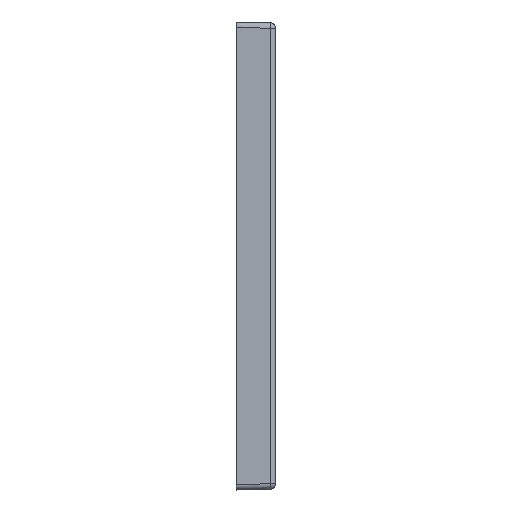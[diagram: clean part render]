
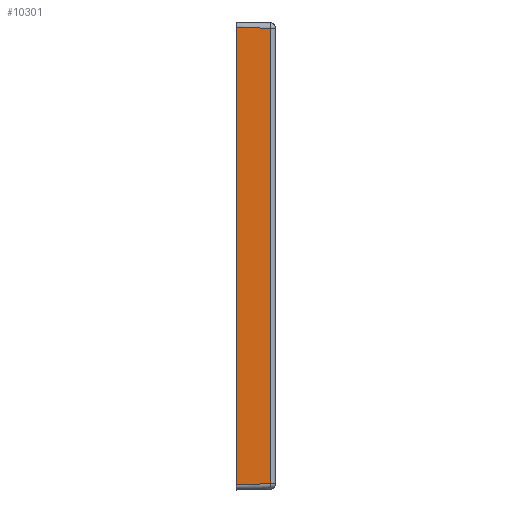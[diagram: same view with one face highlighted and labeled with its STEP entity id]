
A CAD part, left-side view. The second image highlights one B-rep face of the part: STEP entity #10301.
In plain terms, the highlighted planar face has unit normal (-1, -0.026, 0).
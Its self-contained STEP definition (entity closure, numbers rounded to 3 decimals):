
#921 = AXIS2_PLACEMENT_3D ( 'NONE', #10626, #6039, #13582 ) ;
#1565 = LINE ( 'NONE', #15618, #14623 ) ;
#1820 = CARTESIAN_POINT ( 'NONE',  ( -111., 1., 39. ) ) ;
#3073 = ORIENTED_EDGE ( 'NONE', *, *, #11453, .T. ) ;
#3544 = DIRECTION ( 'NONE',  ( 0., 0., 1. ) ) ;
#4084 = EDGE_CURVE ( 'NONE', #5202, #9749, #1565, .T. ) ;
#4616 = ORIENTED_EDGE ( 'NONE', *, *, #4084, .T. ) ;
#5202 = VERTEX_POINT ( 'NONE', #17148 ) ;
#6039 = DIRECTION ( 'NONE',  ( -1., -0.026, 0. ) ) ;
#6502 = VECTOR ( 'NONE', #11967, 1000. ) ;
#6608 = LINE ( 'NONE', #6911, #9987 ) ;
#6911 = CARTESIAN_POINT ( 'NONE',  ( -110.834, -5.326, -47. ) ) ;
#7284 = ORIENTED_EDGE ( 'NONE', *, *, #17126, .T. ) ;
#7811 = EDGE_CURVE ( 'NONE', #8736, #9749, #19893, .T. ) ;
#8716 = EDGE_LOOP ( 'NONE', ( #19284, #7284, #3073, #4616 ) ) ;
#8736 = VERTEX_POINT ( 'NONE', #8944 ) ;
#8896 = FACE_OUTER_BOUND ( 'NONE', #8716, .T. ) ;
#8944 = CARTESIAN_POINT ( 'NONE',  ( -111., 1., -46. ) ) ;
#9749 = VERTEX_POINT ( 'NONE', #1820 ) ;
#9987 = VECTOR ( 'NONE', #3544, 1000. ) ;
#10301 = ADVANCED_FACE ( 'NONE', ( #8896 ), #18248, .T. ) ;
#10626 = CARTESIAN_POINT ( 'NONE',  ( -111., 1., -47. ) ) ;
#11453 = EDGE_CURVE ( 'NONE', #20097, #5202, #6608, .T. ) ;
#11967 = DIRECTION ( 'NONE',  ( 0.026, -0.999, 0.026 ) ) ;
#12368 = CARTESIAN_POINT ( 'NONE',  ( -111.001, 1.026, -46.001 ) ) ;
#13582 = DIRECTION ( 'NONE',  ( -0.026, 1., 0. ) ) ;
#14623 = VECTOR ( 'NONE', #18772, 1000. ) ;
#15618 = CARTESIAN_POINT ( 'NONE',  ( -110.941, -1.249, 38.941 ) ) ;
#16120 = VECTOR ( 'NONE', #17692, 1000. ) ;
#16321 = CARTESIAN_POINT ( 'NONE',  ( -110.834, -5.326, -45.835 ) ) ;
#17126 = EDGE_CURVE ( 'NONE', #8736, #20097, #19699, .T. ) ;
#17148 = CARTESIAN_POINT ( 'NONE',  ( -110.834, -5.326, 38.835 ) ) ;
#17692 = DIRECTION ( 'NONE',  ( 0., 0., 1. ) ) ;
#18248 = PLANE ( 'NONE',  #921 ) ;
#18772 = DIRECTION ( 'NONE',  ( -0.026, 0.999, 0.026 ) ) ;
#19284 = ORIENTED_EDGE ( 'NONE', *, *, #7811, .F. ) ;
#19320 = CARTESIAN_POINT ( 'NONE',  ( -111., 1., -47. ) ) ;
#19699 = LINE ( 'NONE', #12368, #6502 ) ;
#19893 = LINE ( 'NONE', #19320, #16120 ) ;
#20097 = VERTEX_POINT ( 'NONE', #16321 ) ;
